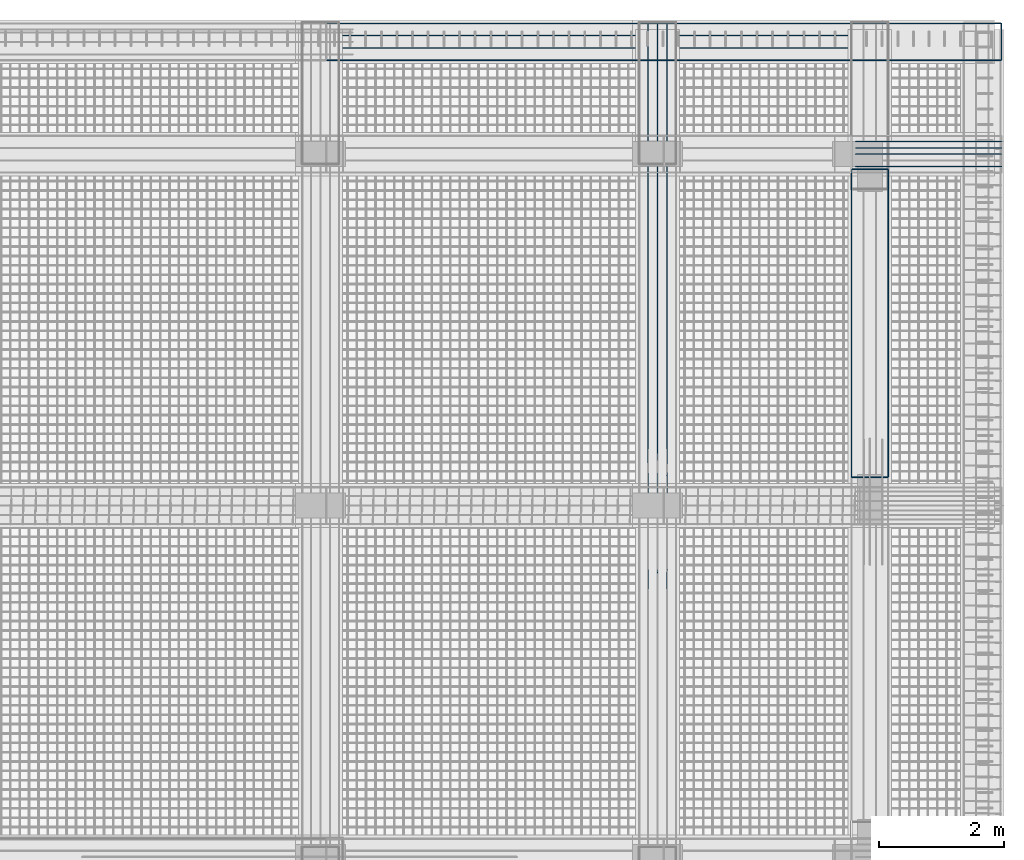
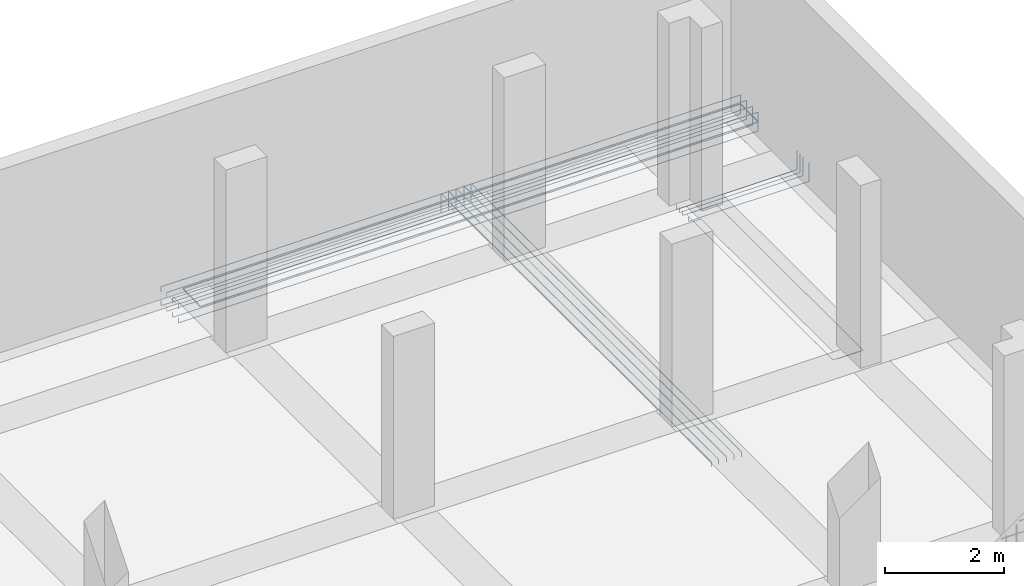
# One storey, part 9 of 9: 5 reinforcing bars.
"""IFC4 building model written with IfcOpenShell, lengths in metres."""

from ifc_helpers import new_model, entity, si_unit, origin_with_axes, place, context, project, spatial, source, transform, mapped, element, save


model = new_model("IFC4")

# Units and contexts
model_context = context("Model", 3, precision=1e-05, world=origin_with_axes())
ifc_project = project(units=[si_unit("LENGTHUNIT", "METRE"), si_unit("AREAUNIT", "SQUARE_METRE"), si_unit("VOLUMEUNIT", "CUBIC_METRE"), si_unit("MASSUNIT", "GRAM", prefix="KILO"), si_unit("TIMEUNIT", "SECOND"), si_unit("PLANEANGLEUNIT", "RADIAN"), si_unit("SOLIDANGLEUNIT", "STERADIAN"), si_unit("THERMODYNAMICTEMPERATUREUNIT", "DEGREE_CELSIUS")], contexts=[model_context])

# Site, building, storey
placement_1 = place(None, origin_with_axes())
site = spatial("IfcSite", under=ifc_project, at=placement_1, Name="Italia", CompositionType="ELEMENT")
building = spatial("IfcBuilding", under=site, at=placement_1, Name="Palazzina", CompositionType="ELEMENT")
storey = spatial("IfcBuildingStorey", under=building, at=placement_1, Name="Storey 0", CompositionType="ELEMENT", Elevation=0.0)

# Reinforcing bars
shared_shape_1 = source(origin_with_axes(), model_context, "Body", "AdvancedSweptSolid", [
    entity("IfcSweptDiskSolid", entity("IfcIndexedPolyCurve", entity("IfcCartesianPointList3D", [[18.1242, 11.46, -0.344], [18.1242, 11.46, -0.434], [18.1249, 11.46, -0.437827], [18.1271, 11.46, -0.441071], [18.1304, 11.46, -0.443239], [18.1342, 11.46, -0.444], [18.55, 11.46, -0.444], [20.45, 11.46, -0.444], [20.4538, 11.46, -0.443239], [20.4571, 11.46, -0.441071], [20.4592, 11.46, -0.437827], [20.46, 11.46, -0.434], [20.46, 11.46, -0.056]]), [entity("IfcLineIndex", [1, 2]), entity("IfcLineIndex", [2, 3]), entity("IfcLineIndex", [3, 4]), entity("IfcLineIndex", [4, 5]), entity("IfcLineIndex", [5, 6]), entity("IfcLineIndex", [6, 7]), entity("IfcLineIndex", [7, 8]), entity("IfcLineIndex", [8, 9]), entity("IfcLineIndex", [9, 10]), entity("IfcLineIndex", [10, 11]), entity("IfcLineIndex", [11, 12]), entity("IfcLineIndex", [12, 13])], False), 0.008),
])
placement_2 = place(placement_1, origin_with_axes())
reinforcing_bar_1_placement = place(placement_2, origin_with_axes())
element("IfcReinforcingBar", 1, at=reinforcing_bar_1_placement, inside=storey, BarLength=2.81503, CrossSectionArea=0.00020106, NominalDiameter=0.016, context=model_context, shape_type="MappedRepresentation", body=[
    mapped(shared_shape_1, transform((0.0, -0.200001, 0.0), x_axis=(1.0, 0.0, 0.0), y_axis=(0.0, 1.0, 0.0), z_axis=(0.0, 0.0, 1.0), scale=1.0)),
    mapped(shared_shape_1, transform((0.0, 0.0, 0.0), x_axis=(1.0, 0.0, 0.0), y_axis=(0.0, 1.0, 0.0), z_axis=(0.0, 0.0, 1.0), scale=1.0)),
    mapped(shared_shape_1, transform((0.0, 0.2, 0.0), x_axis=(1.0, 0.0, 0.0), y_axis=(0.0, 1.0, 0.0), z_axis=(0.0, 0.0, 1.0), scale=1.0)),
    mapped(shared_shape_1, transform((0.0, 0.0999994, 0.0), x_axis=(1.0, 0.0, 0.0), y_axis=(0.0, 1.0, 0.0), z_axis=(0.0, 0.0, 1.0), scale=1.0)),
])
shared_shape_2 = source(origin_with_axes(), model_context, "Body", "AdvancedSweptSolid", [
    entity("IfcSweptDiskSolid", entity("IfcIndexedPolyCurve", entity("IfcCartesianPointList3D", [[9.21509, 12.968, -0.344], [9.21509, 12.968, -0.434], [9.21585, 12.968, -0.437827], [9.21802, 12.968, -0.441071], [9.22127, 12.968, -0.443239], [9.22509, 12.968, -0.444], [9.64091, 12.968, -0.444], [20.45, 12.968, -0.444], [20.4538, 12.968, -0.443239], [20.4571, 12.968, -0.441071], [20.4592, 12.968, -0.437827], [20.46, 12.968, -0.434], [20.46, 12.968, -0.056]]), [entity("IfcLineIndex", [1, 2]), entity("IfcLineIndex", [2, 3]), entity("IfcLineIndex", [3, 4]), entity("IfcLineIndex", [4, 5]), entity("IfcLineIndex", [5, 6]), entity("IfcLineIndex", [6, 7]), entity("IfcLineIndex", [7, 8]), entity("IfcLineIndex", [8, 9]), entity("IfcLineIndex", [9, 10]), entity("IfcLineIndex", [10, 11]), entity("IfcLineIndex", [11, 12]), entity("IfcLineIndex", [12, 13])], False), 0.008),
])
reinforcing_bar_2_placement = place(placement_2, origin_with_axes())
element("IfcReinforcingBar", 2, at=reinforcing_bar_2_placement, inside=storey, BarLength=11.7241, CrossSectionArea=0.00020106, NominalDiameter=0.016, context=model_context, shape_type="MappedRepresentation", body=[
    mapped(shared_shape_2, transform((0.0, 26.52, -0.5), x_axis=(1.0, 0.0, 0.0), y_axis=(0.0, -1.0, 0.0), z_axis=(0.0, 0.0, -1.0), scale=1.0)),
    mapped(shared_shape_2, transform((0.0, 25.936, -0.5), x_axis=(1.0, 0.0, 0.0), y_axis=(0.0, -1.0, 0.0), z_axis=(0.0, 0.0, -1.0), scale=1.0)),
    mapped(shared_shape_2, transform((0.0, 26.328, -0.5), x_axis=(1.0, 0.0, 0.0), y_axis=(0.0, -1.0, 0.0), z_axis=(0.0, 0.0, -1.0), scale=1.0)),
    mapped(shared_shape_2, transform((0.0, 26.128, -0.5), x_axis=(1.0, 0.0, 0.0), y_axis=(0.0, -1.0, 0.0), z_axis=(0.0, 0.0, -1.0), scale=1.0)),
    mapped(shared_shape_2, transform((0.0, 0.584001, 0.0), x_axis=(1.0, 0.0, 0.0), y_axis=(0.0, 1.0, 0.0), z_axis=(0.0, 0.0, 1.0), scale=1.0)),
    mapped(shared_shape_2, transform((0.0, 0.0, 0.0), x_axis=(1.0, 0.0, 0.0), y_axis=(0.0, 1.0, 0.0), z_axis=(0.0, 0.0, 1.0), scale=1.0)),
    mapped(shared_shape_2, transform((0.0, 0.392, 0.0), x_axis=(1.0, 0.0, 0.0), y_axis=(0.0, 1.0, 0.0), z_axis=(0.0, 0.0, 1.0), scale=1.0)),
    mapped(shared_shape_2, transform((0.0, 0.192, 0.0), x_axis=(1.0, 0.0, 0.0), y_axis=(0.0, 1.0, 0.0), z_axis=(0.0, 0.0, 1.0), scale=1.0)),
])
shared_shape_3 = source(origin_with_axes(), model_context, "Body", "AdvancedSweptSolid", [
    entity("IfcSweptDiskSolid", entity("IfcIndexedPolyCurve", entity("IfcCartesianPointList3D", [[9.64091, 13.054, -0.244], [9.64091, 13.544, -0.244], [9.64167, 13.5478, -0.244], [9.64384, 13.5511, -0.244], [9.64708, 13.5532, -0.244], [9.65091, 13.554, -0.244], [20.45, 13.554, -0.244], [20.4538, 13.5532, -0.244], [20.4571, 13.5511, -0.244], [20.4592, 13.5478, -0.244], [20.46, 13.544, -0.244], [20.46, 13.054, -0.244]]), [entity("IfcLineIndex", [1, 2]), entity("IfcLineIndex", [2, 3]), entity("IfcLineIndex", [3, 4]), entity("IfcLineIndex", [4, 5]), entity("IfcLineIndex", [5, 6]), entity("IfcLineIndex", [6, 7]), entity("IfcLineIndex", [7, 8]), entity("IfcLineIndex", [8, 9]), entity("IfcLineIndex", [9, 10]), entity("IfcLineIndex", [10, 11]), entity("IfcLineIndex", [11, 12])], False), 0.006),
])
reinforcing_bar_3_placement = place(placement_2, origin_with_axes())
element("IfcReinforcingBar", 3, at=reinforcing_bar_3_placement, inside=storey, BarLength=11.8103, CrossSectionArea=0.0001131, NominalDiameter=0.012, context=model_context, shape_type="MappedRepresentation", body=[
    mapped(shared_shape_3, transform((0.0, 26.52, -0.5), x_axis=(1.0, 0.0, 0.0), y_axis=(0.0, -1.0, 0.0), z_axis=(0.0, 0.0, -1.0), scale=1.0)),
    mapped(shared_shape_3, transform((0.0, 0.0, 0.0), x_axis=(1.0, 0.0, 0.0), y_axis=(0.0, 1.0, 0.0), z_axis=(0.0, 0.0, 1.0), scale=1.0)),
])
shared_shape_4 = source(origin_with_axes(), model_context, "Body", "AdvancedSweptSolid", [
    entity("IfcSweptDiskSolid", entity("IfcIndexedPolyCurve", entity("IfcCartesianPointList3D", [[15.242, 4.488, -0.156], [15.242, 4.488, -0.066], [15.242, 4.48876, -0.0621732], [15.242, 4.49093, -0.0589289], [15.242, 4.49417, -0.0567612], [15.242, 4.498, -0.056], [15.242, 4.91382, -0.056], [15.242, 13.56, -0.056], [15.242, 13.5638, -0.0567612], [15.242, 13.5671, -0.0589289], [15.242, 13.5692, -0.0621732], [15.242, 13.57, -0.066], [15.242, 13.57, -0.444]]), [entity("IfcLineIndex", [1, 2]), entity("IfcLineIndex", [2, 3]), entity("IfcLineIndex", [3, 4]), entity("IfcLineIndex", [4, 5]), entity("IfcLineIndex", [5, 6]), entity("IfcLineIndex", [6, 7]), entity("IfcLineIndex", [7, 8]), entity("IfcLineIndex", [8, 9]), entity("IfcLineIndex", [9, 10]), entity("IfcLineIndex", [10, 11]), entity("IfcLineIndex", [11, 12]), entity("IfcLineIndex", [12, 13])], False), 0.008),
])
reinforcing_bar_4_placement = place(placement_2, origin_with_axes())
element("IfcReinforcingBar", 4, at=reinforcing_bar_4_placement, inside=storey, BarLength=9.56121, CrossSectionArea=0.00020106, NominalDiameter=0.016, context=model_context, shape_type="MappedRepresentation", body=[
    mapped(shared_shape_4, transform((0.0, 0.0, 0.0), x_axis=(1.0, 0.0, 0.0), y_axis=(0.0, 1.0, 0.0), z_axis=(0.0, 0.0, 1.0), scale=1.0)),
    mapped(shared_shape_4, transform((-0.584, 0.0, 0.0), x_axis=(1.0, 0.0, 0.0), y_axis=(0.0, 1.0, 0.0), z_axis=(0.0, 0.0, 1.0), scale=1.0)),
    mapped(shared_shape_4, transform((-0.141999, 0.0, 0.0), x_axis=(1.0, 0.0, 0.0), y_axis=(0.0, 1.0, 0.0), z_axis=(0.0, 0.0, 1.0), scale=1.0)),
    mapped(shared_shape_4, transform((-0.292, 0.0, 0.0), x_axis=(1.0, 0.0, 0.0), y_axis=(0.0, 1.0, 0.0), z_axis=(0.0, 0.0, 1.0), scale=1.0)),
    mapped(shared_shape_4, transform((-0.441999, 0.0, 0.0), x_axis=(1.0, 0.0, 0.0), y_axis=(0.0, 1.0, 0.0), z_axis=(0.0, 0.0, 1.0), scale=1.0)),
])
shared_shape_5 = source(origin_with_axes(), model_context, "Body", "AdvancedSweptSolid", [
    entity("IfcSweptDiskSolid", entity("IfcIndexedPolyCurve", entity("IfcCartesianPointList3D", [[18.556, 6.285, -0.244], [18.066, 6.285, -0.244], [18.0622, 6.28576, -0.244], [18.0589, 6.28793, -0.244], [18.0568, 6.29117, -0.244], [18.056, 6.295, -0.244], [18.056, 11.2071, -0.244], [18.0568, 11.211, -0.244], [18.0589, 11.2142, -0.244], [18.0622, 11.2164, -0.244], [18.066, 11.2171, -0.244], [18.556, 11.2171, -0.244]]), [entity("IfcLineIndex", [1, 2]), entity("IfcLineIndex", [2, 3]), entity("IfcLineIndex", [3, 4]), entity("IfcLineIndex", [4, 5]), entity("IfcLineIndex", [5, 6]), entity("IfcLineIndex", [6, 7]), entity("IfcLineIndex", [7, 8]), entity("IfcLineIndex", [8, 9]), entity("IfcLineIndex", [9, 10]), entity("IfcLineIndex", [10, 11]), entity("IfcLineIndex", [11, 12])], False), 0.006),
])
reinforcing_bar_5_placement = place(placement_2, origin_with_axes())
element("IfcReinforcingBar", 5, at=reinforcing_bar_5_placement, inside=storey, BarLength=5.92336, CrossSectionArea=0.0001131, NominalDiameter=0.012, context=model_context, shape_type="MappedRepresentation", body=[
    mapped(shared_shape_5, transform((36.7, 0.0, -0.5), x_axis=(-1.0, 0.0, 0.0), y_axis=(0.0, 1.0, 0.0), z_axis=(0.0, 0.0, -1.0), scale=1.0)),
    mapped(shared_shape_5, transform((0.0, 0.0, 0.0), x_axis=(1.0, 0.0, 0.0), y_axis=(0.0, 1.0, 0.0), z_axis=(0.0, 0.0, 1.0), scale=1.0)),
])

save(model, "model.ifc")
